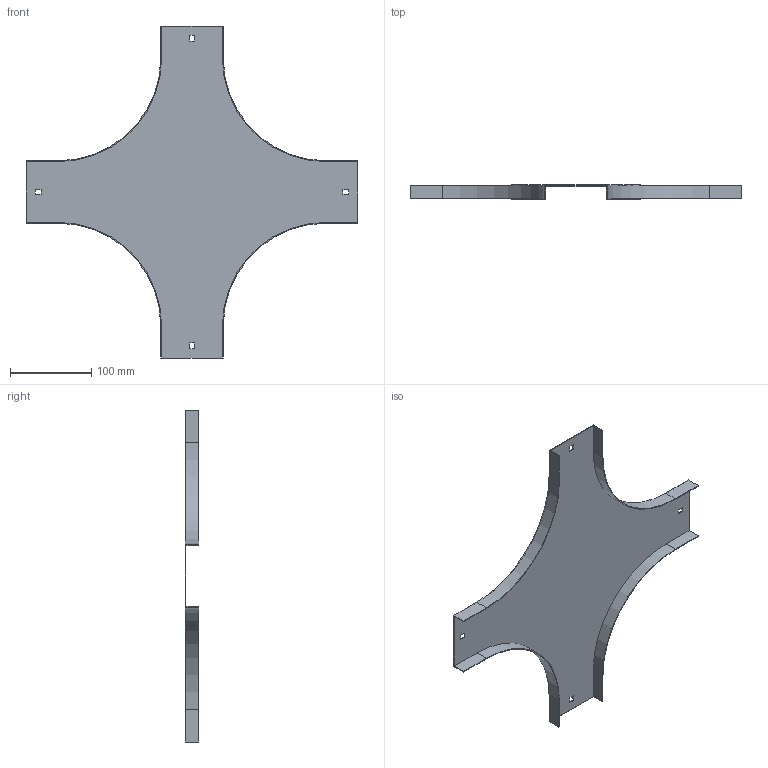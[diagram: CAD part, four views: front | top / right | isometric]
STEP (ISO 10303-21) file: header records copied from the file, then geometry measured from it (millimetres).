
FILE_DESCRIPTION (( 'STEP AP214' ), '1' );
FILE_NAME ('OC_075.step', '2025-07-16T09:10:24', ( '' ), ( '' ), 'SwSTEP 2.0', 'SolidWorks 2023', '' );
FILE_SCHEMA (( 'AUTOMOTIVE_DESIGN' ));
Length unit declared in the file: millimetre
Products named in the file (1): OC_075
Bounding box: 409 x 17 x 409 mm (x, y, z)
Volume: 88354.2 mm3; surface area: 178360.2 mm2
Topology: 1 solids, 1 shells, 50 faces, 144 edges, 96 vertices
Faces by surface type: plane 42, cylinder 8
Entity records: 1663 total; most frequent: CARTESIAN_POINT 291, ORIENTED_EDGE 288, DIRECTION 262, EDGE_CURVE 144, LINE 128, VECTOR 128, VERTEX_POINT 96, AXIS2_PLACEMENT_3D 67
